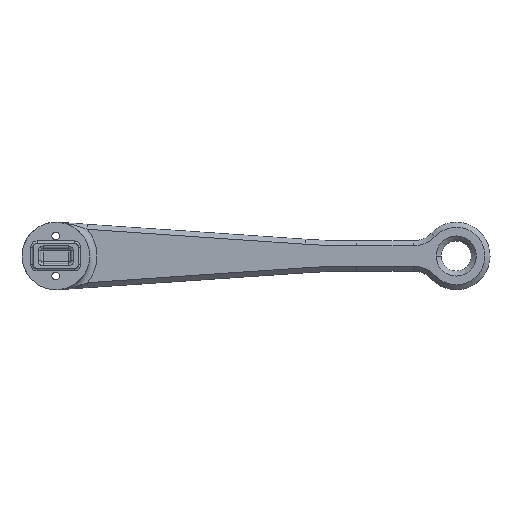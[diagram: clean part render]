
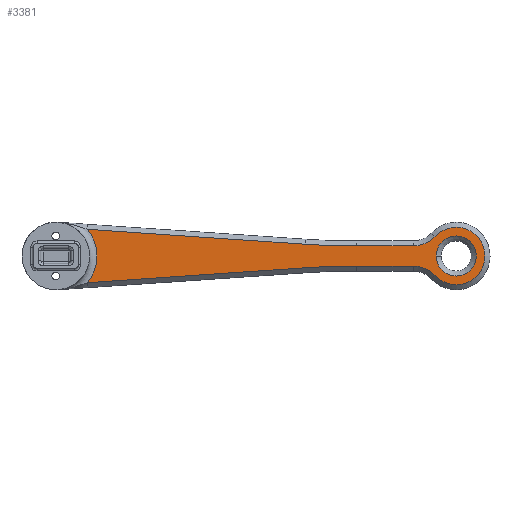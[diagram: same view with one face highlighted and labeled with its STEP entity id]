
A CAD part, top view. The second image highlights one B-rep face of the part: STEP entity #3381.
In plain terms, the highlighted planar face has unit normal (0, 0, 1) as drawn and (1, 0, 0) by its records, which use the part's own axes.
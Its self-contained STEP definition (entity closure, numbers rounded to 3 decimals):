
#8 = CARTESIAN_POINT ( 'NONE',  ( 5., -16., -142.788 ) ) ;
#131 = AXIS2_PLACEMENT_3D ( 'NONE', #349, #2123, #1229 ) ;
#169 = DIRECTION ( 'NONE',  ( 0., 0.068, -0.998 ) ) ;
#203 = DIRECTION ( 'NONE',  ( 0., 0., 1. ) ) ;
#237 = PLANE ( 'NONE',  #1376 ) ;
#243 = EDGE_CURVE ( 'NONE', #3438, #2986, #3258, .T. ) ;
#274 = ORIENTED_EDGE ( 'NONE', *, *, #3374, .T. ) ;
#349 = CARTESIAN_POINT ( 'NONE',  ( 5., 16., -142.788 ) ) ;
#381 = AXIS2_PLACEMENT_3D ( 'NONE', #1749, #2773, #3686 ) ;
#395 = DIRECTION ( 'NONE',  ( 0., 0., -1. ) ) ;
#398 = DIRECTION ( 'NONE',  ( 0., 0., 1. ) ) ;
#400 = ORIENTED_EDGE ( 'NONE', *, *, #2303, .T. ) ;
#442 = DIRECTION ( 'NONE',  ( -1., 0., 0. ) ) ;
#520 = EDGE_CURVE ( 'NONE', #1968, #1253, #1745, .T. ) ;
#526 = DIRECTION ( 'NONE',  ( -1., 0., 0. ) ) ;
#582 = ORIENTED_EDGE ( 'NONE', *, *, #3758, .T. ) ;
#670 = EDGE_CURVE ( 'NONE', #2472, #3405, #3073, .T. ) ;
#675 = EDGE_LOOP ( 'NONE', ( #3826, #998 ) ) ;
#688 = FACE_BOUND ( 'NONE', #675, .T. ) ;
#739 = DIRECTION ( 'NONE',  ( -1., 0., 0. ) ) ;
#760 = VERTEX_POINT ( 'NONE', #862 ) ;
#862 = CARTESIAN_POINT ( 'NONE',  ( 5., -4., -120.258 ) ) ;
#895 = DIRECTION ( 'NONE',  ( 0., 0.068, 0.998 ) ) ;
#991 = EDGE_CURVE ( 'NONE', #760, #3438, #3626, .T. ) ;
#998 = ORIENTED_EDGE ( 'NONE', *, *, #2384, .T. ) ;
#1109 = EDGE_CURVE ( 'NONE', #1124, #760, #2306, .T. ) ;
#1124 = VERTEX_POINT ( 'NONE', #2530 ) ;
#1125 = DIRECTION ( 'NONE',  ( 0., 0., 1. ) ) ;
#1158 = CIRCLE ( 'NONE', #2991, 8. ) ;
#1162 = EDGE_CURVE ( 'NONE', #3109, #1124, #1467, .T. ) ;
#1229 = DIRECTION ( 'NONE',  ( 0., 0., 1. ) ) ;
#1253 = VERTEX_POINT ( 'NONE', #3179 ) ;
#1368 = CARTESIAN_POINT ( 'NONE',  ( 5., 0., -160. ) ) ;
#1376 = AXIS2_PLACEMENT_3D ( 'NONE', #2320, #2003, #203 ) ;
#1393 = VERTEX_POINT ( 'NONE', #3192 ) ;
#1447 = DIRECTION ( 'NONE',  ( 0., 0., 1. ) ) ;
#1466 = CARTESIAN_POINT ( 'NONE',  ( 5., 4., -142.788 ) ) ;
#1467 = LINE ( 'NONE', #3171, #3260 ) ;
#1486 = CIRCLE ( 'NONE', #381, 8. ) ;
#1560 = CARTESIAN_POINT ( 'NONE',  ( 5., -10.665, -12.59 ) ) ;
#1566 = CARTESIAN_POINT ( 'NONE',  ( 5., -4., -142.788 ) ) ;
#1667 = CARTESIAN_POINT ( 'NONE',  ( 5., 4., -120.258 ) ) ;
#1668 = AXIS2_PLACEMENT_3D ( 'NONE', #8, #2095, #1447 ) ;
#1707 = CARTESIAN_POINT ( 'NONE',  ( 5., 0., 0. ) ) ;
#1745 = LINE ( 'NONE', #1667, #1983 ) ;
#1749 = CARTESIAN_POINT ( 'NONE',  ( 5., 0., -160. ) ) ;
#1765 = ORIENTED_EDGE ( 'NONE', *, *, #520, .T. ) ;
#1902 = CARTESIAN_POINT ( 'NONE',  ( 5., 4.705, -99.629 ) ) ;
#1964 = CIRCLE ( 'NONE', #2241, 302. ) ;
#1968 = VERTEX_POINT ( 'NONE', #1466 ) ;
#1972 = DIRECTION ( 'NONE',  ( 0., 0., 1. ) ) ;
#1983 = VECTOR ( 'NONE', #1972, 1000. ) ;
#2003 = DIRECTION ( 'NONE',  ( -1., 0., 0. ) ) ;
#2008 = CARTESIAN_POINT ( 'NONE',  ( 5., 0., -160. ) ) ;
#2022 = DIRECTION ( 'NONE',  ( 0., 0., 1. ) ) ;
#2049 = ORIENTED_EDGE ( 'NONE', *, *, #670, .T. ) ;
#2090 = ORIENTED_EDGE ( 'NONE', *, *, #991, .T. ) ;
#2095 = DIRECTION ( 'NONE',  ( -1., 0., 0. ) ) ;
#2097 = VERTEX_POINT ( 'NONE', #2956 ) ;
#2123 = DIRECTION ( 'NONE',  ( -1., 0., 0. ) ) ;
#2162 = CARTESIAN_POINT ( 'NONE',  ( 5., 306., -120.258 ) ) ;
#2230 = ORIENTED_EDGE ( 'NONE', *, *, #1162, .T. ) ;
#2239 = DIRECTION ( 'NONE',  ( 0., 0., 1. ) ) ;
#2241 = AXIS2_PLACEMENT_3D ( 'NONE', #2162, #2768, #398 ) ;
#2267 = VECTOR ( 'NONE', #895, 1000. ) ;
#2295 = DIRECTION ( 'NONE',  ( 1., 0., 0. ) ) ;
#2303 = EDGE_CURVE ( 'NONE', #1253, #2472, #1964, .T. ) ;
#2306 = CIRCLE ( 'NONE', #3820, 302. ) ;
#2320 = CARTESIAN_POINT ( 'NONE',  ( 5., 16., -142.788 ) ) ;
#2384 = EDGE_CURVE ( 'NONE', #2890, #2097, #1158, .T. ) ;
#2426 = ORIENTED_EDGE ( 'NONE', *, *, #3303, .T. ) ;
#2443 = CARTESIAN_POINT ( 'NONE',  ( 5., 10.665, -12.59 ) ) ;
#2472 = VERTEX_POINT ( 'NONE', #1902 ) ;
#2530 = CARTESIAN_POINT ( 'NONE',  ( 5., -4.705, -99.629 ) ) ;
#2627 = CIRCLE ( 'NONE', #3115, 16.5 ) ;
#2654 = ORIENTED_EDGE ( 'NONE', *, *, #243, .T. ) ;
#2768 = DIRECTION ( 'NONE',  ( -1., 0., 0. ) ) ;
#2773 = DIRECTION ( 'NONE',  ( -1., 0., 0. ) ) ;
#2850 = DIRECTION ( 'NONE',  ( 0., 0., 1. ) ) ;
#2862 = CARTESIAN_POINT ( 'NONE',  ( 5., -306., -120.258 ) ) ;
#2890 = VERTEX_POINT ( 'NONE', #3347 ) ;
#2909 = CIRCLE ( 'NONE', #3777, 11.5 ) ;
#2956 = CARTESIAN_POINT ( 'NONE',  ( 5., 0., -168. ) ) ;
#2962 = CIRCLE ( 'NONE', #131, 12. ) ;
#2986 = VERTEX_POINT ( 'NONE', #3652 ) ;
#2991 = AXIS2_PLACEMENT_3D ( 'NONE', #1368, #739, #2850 ) ;
#3073 = LINE ( 'NONE', #3298, #2267 ) ;
#3109 = VERTEX_POINT ( 'NONE', #1560 ) ;
#3115 = AXIS2_PLACEMENT_3D ( 'NONE', #1707, #526, #2022 ) ;
#3155 = ORIENTED_EDGE ( 'NONE', *, *, #1109, .T. ) ;
#3171 = CARTESIAN_POINT ( 'NONE',  ( 5., -4.705, -99.629 ) ) ;
#3179 = CARTESIAN_POINT ( 'NONE',  ( 5., 4., -120.258 ) ) ;
#3192 = CARTESIAN_POINT ( 'NONE',  ( 5., 7.83, -151.577 ) ) ;
#3258 = CIRCLE ( 'NONE', #1668, 12. ) ;
#3260 = VECTOR ( 'NONE', #169, 1000. ) ;
#3298 = CARTESIAN_POINT ( 'NONE',  ( 5., 10.825, -10.25 ) ) ;
#3303 = EDGE_CURVE ( 'NONE', #1393, #1968, #2962, .T. ) ;
#3347 = CARTESIAN_POINT ( 'NONE',  ( 5., 0., -152. ) ) ;
#3374 = EDGE_CURVE ( 'NONE', #3405, #3109, #2627, .T. ) ;
#3381 = ADVANCED_FACE ( 'NONE', ( #688, #3701 ), #237, .F. ) ;
#3405 = VERTEX_POINT ( 'NONE', #2443 ) ;
#3438 = VERTEX_POINT ( 'NONE', #3482 ) ;
#3482 = CARTESIAN_POINT ( 'NONE',  ( 5., -4., -142.788 ) ) ;
#3533 = VECTOR ( 'NONE', #395, 1000. ) ;
#3626 = LINE ( 'NONE', #1566, #3533 ) ;
#3652 = CARTESIAN_POINT ( 'NONE',  ( 5., -7.83, -151.577 ) ) ;
#3686 = DIRECTION ( 'NONE',  ( 0., 0., 1. ) ) ;
#3701 = FACE_OUTER_BOUND ( 'NONE', #3756, .T. ) ;
#3756 = EDGE_LOOP ( 'NONE', ( #400, #2049, #274, #2230, #3155, #2090, #2654, #582, #2426, #1765 ) ) ;
#3758 = EDGE_CURVE ( 'NONE', #2986, #1393, #2909, .T. ) ;
#3777 = AXIS2_PLACEMENT_3D ( 'NONE', #2008, #2295, #1125 ) ;
#3820 = AXIS2_PLACEMENT_3D ( 'NONE', #2862, #442, #2239 ) ;
#3826 = ORIENTED_EDGE ( 'NONE', *, *, #3872, .T. ) ;
#3872 = EDGE_CURVE ( 'NONE', #2097, #2890, #1486, .T. ) ;
